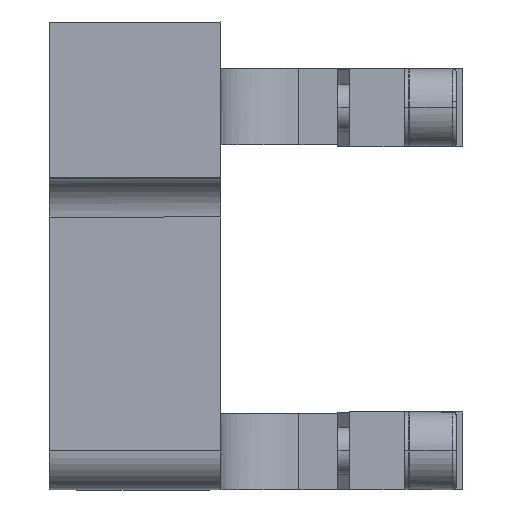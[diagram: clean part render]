
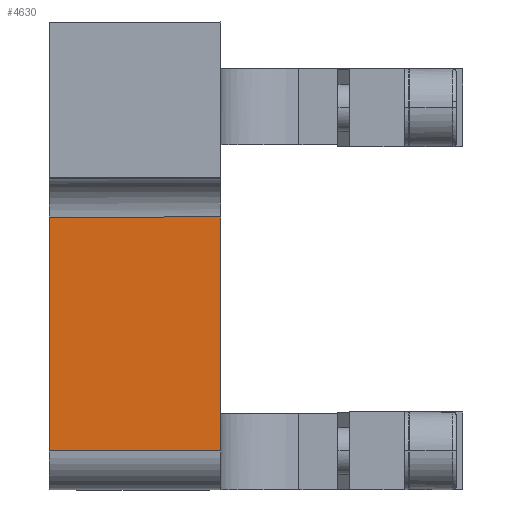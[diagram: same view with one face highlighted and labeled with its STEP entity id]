
A CAD part, left-side view. The second image highlights one B-rep face of the part: STEP entity #4630.
In plain terms, the highlighted planar face has unit normal (-1, 0, 0).
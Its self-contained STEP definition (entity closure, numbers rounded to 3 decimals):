
#4298=CARTESIAN_POINT('Vertex',(-81.,37.,-22.)) ;
#4305=CARTESIAN_POINT('Vertex',(-81.,15.,-22.)) ;
#4308=CARTESIAN_POINT('Line Origine',(-81.,18.5,-22.)) ;
#4462=CARTESIAN_POINT('Line Origine',(-81.,15.,-7.)) ;
#4466=CARTESIAN_POINT('Vertex',(-81.,15.,8.)) ;
#4539=CARTESIAN_POINT('Line Origine',(-81.,37.,-7.)) ;
#4543=CARTESIAN_POINT('Vertex',(-81.,37.,8.)) ;
#4614=CARTESIAN_POINT('Axis2P3D Location',(-81.,0.,-27.)) ;
#4619=CARTESIAN_POINT('Line Origine',(-81.,26.,8.)) ;
#4309=DIRECTION('Vector Direction',(0.,1.,0.)) ;
#4463=DIRECTION('Vector Direction',(0.,0.,1.)) ;
#4540=DIRECTION('Vector Direction',(0.,0.,1.)) ;
#4615=DIRECTION('Axis2P3D Direction',(-1.,0.,0.)) ;
#4616=DIRECTION('Axis2P3D XDirection',(0.,0.,1.)) ;
#4620=DIRECTION('Vector Direction',(0.,-1.,0.)) ;
#4617=AXIS2_PLACEMENT_3D('Plane Axis2P3D',#4614,#4615,#4616) ;
#4625=ORIENTED_EDGE('',*,*,#4545,.F.) ;
#4626=ORIENTED_EDGE('',*,*,#4312,.F.) ;
#4627=ORIENTED_EDGE('',*,*,#4468,.T.) ;
#4628=ORIENTED_EDGE('',*,*,#4623,.T.) ;
#4310=VECTOR('Line Direction',#4309,1.) ;
#4464=VECTOR('Line Direction',#4463,1.) ;
#4541=VECTOR('Line Direction',#4540,1.) ;
#4621=VECTOR('Line Direction',#4620,1.) ;
#4630=ADVANCED_FACE('Brep With Voids',(#4629),#4618,.T.) ;
#4312=EDGE_CURVE('',#4306,#4299,#4311,.T.) ;
#4468=EDGE_CURVE('',#4306,#4467,#4465,.T.) ;
#4545=EDGE_CURVE('',#4299,#4544,#4542,.T.) ;
#4623=EDGE_CURVE('',#4467,#4544,#4622,.F.) ;
#4624=EDGE_LOOP('',(#4625,#4626,#4627,#4628)) ;
#4629=FACE_OUTER_BOUND('',#4624,.T.) ;
#4311=LINE('Line',#4308,#4310) ;
#4465=LINE('Line',#4462,#4464) ;
#4542=LINE('Line',#4539,#4541) ;
#4622=LINE('Line',#4619,#4621) ;
#4618=PLANE('Plane',#4617) ;
#4299=VERTEX_POINT('',#4298) ;
#4306=VERTEX_POINT('',#4305) ;
#4467=VERTEX_POINT('',#4466) ;
#4544=VERTEX_POINT('',#4543) ;
